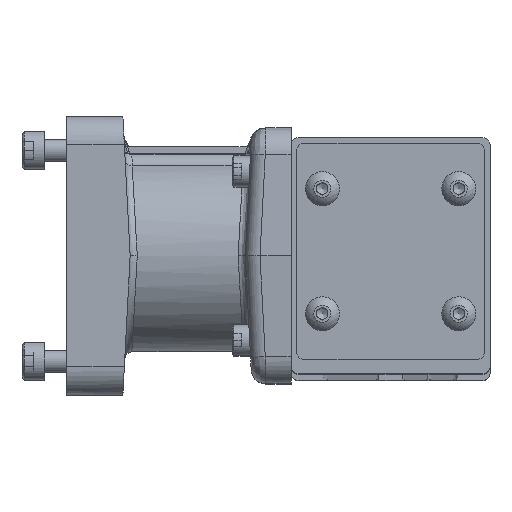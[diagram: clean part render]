
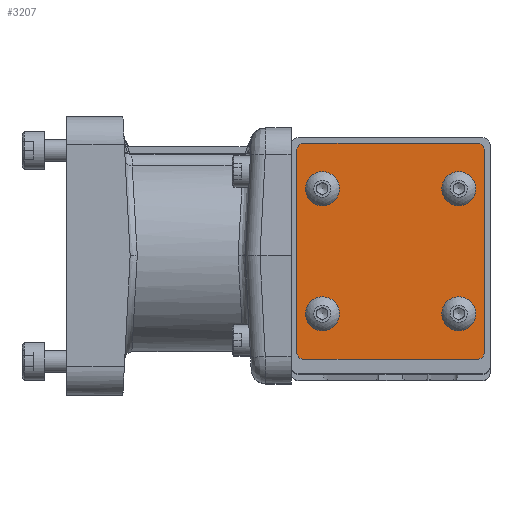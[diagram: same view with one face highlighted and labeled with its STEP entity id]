
A CAD part, top view. The second image highlights one B-rep face of the part: STEP entity #3207.
In plain terms, the highlighted planar face has unit normal (0, 0, 1).
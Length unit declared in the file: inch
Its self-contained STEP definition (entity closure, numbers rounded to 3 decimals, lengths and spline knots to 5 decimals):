
#634 = VERTEX_POINT ( 'NONE', #11875 ) ;
#692 = VECTOR ( 'NONE', #22213, 39.37008 ) ;
#976 = CARTESIAN_POINT ( 'NONE',  ( -0.762, 0.927, 1.063 ) ) ;
#987 = DIRECTION ( 'NONE',  ( 1., 0., 0. ) ) ;
#2146 = ORIENTED_EDGE ( 'NONE', *, *, #10528, .T. ) ;
#2365 = CARTESIAN_POINT ( 'NONE',  ( 0.6, -0.51, 1.063 ) ) ;
#3207 = ADVANCED_FACE ( 'NONE', ( #27735, #45868, #16098, #11901, #27014 ), #4696, .T. ) ;
#3572 = CARTESIAN_POINT ( 'NONE',  ( 0.762, -0.91, 1.063 ) ) ;
#3757 = EDGE_CURVE ( 'NONE', #14435, #14435, #23535, .T. ) ;
#3854 = VECTOR ( 'NONE', #27213, 39.37008 ) ;
#3864 = CARTESIAN_POINT ( 'NONE',  ( -0.762, 0.99, 1.063 ) ) ;
#4056 = AXIS2_PLACEMENT_3D ( 'NONE', #15235, #11529, #26874 ) ;
#4665 = CARTESIAN_POINT ( 'NONE',  ( 0.6, 0.59, 1.063 ) ) ;
#4696 = PLANE ( 'NONE',  #25077 ) ;
#4776 = EDGE_CURVE ( 'NONE', #17840, #16408, #8847, .T. ) ;
#4898 = EDGE_LOOP ( 'NONE', ( #28492 ) ) ;
#5270 = VERTEX_POINT ( 'NONE', #5434 ) ;
#5307 = EDGE_CURVE ( 'NONE', #7314, #17840, #28161, .T. ) ;
#5434 = CARTESIAN_POINT ( 'NONE',  ( -0.762, -0.91, 1.063 ) ) ;
#5904 = EDGE_CURVE ( 'NONE', #634, #29997, #37591, .T. ) ;
#6760 = CARTESIAN_POINT ( 'NONE',  ( 0.6748, -0.63956, 1.063 ) ) ;
#6798 = AXIS2_PLACEMENT_3D ( 'NONE', #15627, #38434, #987 ) ;
#6934 = DIRECTION ( 'NONE',  ( 0.5, -0.866, 0. ) ) ;
#7009 = CIRCLE ( 'NONE', #18083, 0.063 ) ;
#7314 = VERTEX_POINT ( 'NONE', #3572 ) ;
#8186 = EDGE_LOOP ( 'NONE', ( #41074, #40082, #2146, #13989, #41931, #12318, #14798, #11059 ) ) ;
#8196 = CIRCLE ( 'NONE', #35893, 0.14961 ) ;
#8303 = AXIS2_PLACEMENT_3D ( 'NONE', #26528, #41654, #12130 ) ;
#8663 = DIRECTION ( 'NONE',  ( 0., 0., 1. ) ) ;
#8847 = LINE ( 'NONE', #39345, #3854 ) ;
#9681 = EDGE_CURVE ( 'NONE', #20344, #20344, #30883, .T. ) ;
#10018 = EDGE_CURVE ( 'NONE', #5270, #7314, #44063, .T. ) ;
#10528 = EDGE_CURVE ( 'NONE', #25104, #5270, #42841, .T. ) ;
#11059 = ORIENTED_EDGE ( 'NONE', *, *, #5904, .T. ) ;
#11126 = AXIS2_PLACEMENT_3D ( 'NONE', #45116, #41397, #6934 ) ;
#11529 = DIRECTION ( 'NONE',  ( 0., 0., 1. ) ) ;
#11875 = CARTESIAN_POINT ( 'NONE',  ( 0.762, 0.99, 1.063 ) ) ;
#11880 = CARTESIAN_POINT ( 'NONE',  ( -0.825, -0.847, 1.063 ) ) ;
#11901 = FACE_BOUND ( 'NONE', #26910, .T. ) ;
#12025 = VERTEX_POINT ( 'NONE', #45996 ) ;
#12130 = DIRECTION ( 'NONE',  ( 0.5, -0.866, 0. ) ) ;
#12160 = AXIS2_PLACEMENT_3D ( 'NONE', #46170, #43185, #16412 ) ;
#12318 = ORIENTED_EDGE ( 'NONE', *, *, #4776, .T. ) ;
#13989 = ORIENTED_EDGE ( 'NONE', *, *, #10018, .T. ) ;
#14435 = VERTEX_POINT ( 'NONE', #6760 ) ;
#14798 = ORIENTED_EDGE ( 'NONE', *, *, #22359, .T. ) ;
#15196 = CARTESIAN_POINT ( 'NONE',  ( -0.5252, -0.63956, 1.063 ) ) ;
#15235 = CARTESIAN_POINT ( 'NONE',  ( -0.762, -0.847, 1.063 ) ) ;
#15627 = CARTESIAN_POINT ( 'NONE',  ( 0.762, -0.847, 1.063 ) ) ;
#16098 = FACE_BOUND ( 'NONE', #38604, .T. ) ;
#16408 = VERTEX_POINT ( 'NONE', #24290 ) ;
#16412 = DIRECTION ( 'NONE',  ( -1., 0., 0. ) ) ;
#16902 = CIRCLE ( 'NONE', #12160, 0.063 ) ;
#17565 = CARTESIAN_POINT ( 'NONE',  ( -0.825, 0.927, 1.063 ) ) ;
#17792 = CARTESIAN_POINT ( 'NONE',  ( -0.762, -0.91, 1.063 ) ) ;
#17823 = CIRCLE ( 'NONE', #8303, 0.14961 ) ;
#17840 = VERTEX_POINT ( 'NONE', #39616 ) ;
#18083 = AXIS2_PLACEMENT_3D ( 'NONE', #43642, #47379, #39443 ) ;
#20101 = CARTESIAN_POINT ( 'NONE',  ( -0.5252, 0.46044, 1.063 ) ) ;
#20344 = VERTEX_POINT ( 'NONE', #20101 ) ;
#20364 = AXIS2_PLACEMENT_3D ( 'NONE', #2365, #24677, #39574 ) ;
#21184 = CARTESIAN_POINT ( 'NONE',  ( -0.762, 0.99, 1.063 ) ) ;
#21851 = VERTEX_POINT ( 'NONE', #48743 ) ;
#22213 = DIRECTION ( 'NONE',  ( -1., 0., 0. ) ) ;
#22359 = EDGE_CURVE ( 'NONE', #16408, #634, #16902, .T. ) ;
#23535 = CIRCLE ( 'NONE', #20364, 0.14961 ) ;
#23708 = EDGE_CURVE ( 'NONE', #33546, #33546, #17823, .T. ) ;
#24290 = CARTESIAN_POINT ( 'NONE',  ( 0.825, 0.927, 1.063 ) ) ;
#24677 = DIRECTION ( 'NONE',  ( 0., 0., 1. ) ) ;
#24753 = LINE ( 'NONE', #17565, #29241 ) ;
#25018 = ORIENTED_EDGE ( 'NONE', *, *, #3757, .F. ) ;
#25077 = AXIS2_PLACEMENT_3D ( 'NONE', #976, #8663, #27260 ) ;
#25104 = VERTEX_POINT ( 'NONE', #11880 ) ;
#26528 = CARTESIAN_POINT ( 'NONE',  ( -0.6, -0.51, 1.063 ) ) ;
#26874 = DIRECTION ( 'NONE',  ( 1., 0., 0. ) ) ;
#26910 = EDGE_LOOP ( 'NONE', ( #25018 ) ) ;
#27014 = FACE_BOUND ( 'NONE', #4898, .T. ) ;
#27213 = DIRECTION ( 'NONE',  ( 0., 1., 0. ) ) ;
#27260 = DIRECTION ( 'NONE',  ( 1., 0., 0. ) ) ;
#27735 = FACE_BOUND ( 'NONE', #36174, .T. ) ;
#28161 = CIRCLE ( 'NONE', #6798, 0.063 ) ;
#28492 = ORIENTED_EDGE ( 'NONE', *, *, #23708, .F. ) ;
#29241 = VECTOR ( 'NONE', #45093, 39.37008 ) ;
#29997 = VERTEX_POINT ( 'NONE', #21184 ) ;
#30754 = EDGE_CURVE ( 'NONE', #29997, #21851, #7009, .T. ) ;
#30883 = CIRCLE ( 'NONE', #11126, 0.14961 ) ;
#33546 = VERTEX_POINT ( 'NONE', #15196 ) ;
#33987 = EDGE_CURVE ( 'NONE', #21851, #25104, #24753, .T. ) ;
#35077 = ORIENTED_EDGE ( 'NONE', *, *, #9681, .F. ) ;
#35893 = AXIS2_PLACEMENT_3D ( 'NONE', #4665, #36356, #39362 ) ;
#36174 = EDGE_LOOP ( 'NONE', ( #35077 ) ) ;
#36356 = DIRECTION ( 'NONE',  ( 0., 0., 1. ) ) ;
#37591 = LINE ( 'NONE', #3864, #692 ) ;
#38197 = EDGE_CURVE ( 'NONE', #12025, #12025, #8196, .T. ) ;
#38434 = DIRECTION ( 'NONE',  ( 0., 0., 1. ) ) ;
#38604 = EDGE_LOOP ( 'NONE', ( #46700 ) ) ;
#38851 = VECTOR ( 'NONE', #48784, 39.37008 ) ;
#39345 = CARTESIAN_POINT ( 'NONE',  ( 0.825, 0.927, 1.063 ) ) ;
#39362 = DIRECTION ( 'NONE',  ( 0.5, -0.866, 0. ) ) ;
#39443 = DIRECTION ( 'NONE',  ( 1., 0., 0. ) ) ;
#39574 = DIRECTION ( 'NONE',  ( 0.5, -0.866, 0. ) ) ;
#39616 = CARTESIAN_POINT ( 'NONE',  ( 0.825, -0.847, 1.063 ) ) ;
#40082 = ORIENTED_EDGE ( 'NONE', *, *, #33987, .T. ) ;
#41074 = ORIENTED_EDGE ( 'NONE', *, *, #30754, .T. ) ;
#41397 = DIRECTION ( 'NONE',  ( 0., 0., 1. ) ) ;
#41654 = DIRECTION ( 'NONE',  ( 0., 0., 1. ) ) ;
#41931 = ORIENTED_EDGE ( 'NONE', *, *, #5307, .T. ) ;
#42841 = CIRCLE ( 'NONE', #4056, 0.063 ) ;
#43185 = DIRECTION ( 'NONE',  ( 0., 0., 1. ) ) ;
#43642 = CARTESIAN_POINT ( 'NONE',  ( -0.762, 0.927, 1.063 ) ) ;
#44063 = LINE ( 'NONE', #17792, #38851 ) ;
#45093 = DIRECTION ( 'NONE',  ( 0., -1., 0. ) ) ;
#45116 = CARTESIAN_POINT ( 'NONE',  ( -0.6, 0.59, 1.063 ) ) ;
#45868 = FACE_OUTER_BOUND ( 'NONE', #8186, .T. ) ;
#45996 = CARTESIAN_POINT ( 'NONE',  ( 0.6748, 0.46044, 1.063 ) ) ;
#46170 = CARTESIAN_POINT ( 'NONE',  ( 0.762, 0.927, 1.063 ) ) ;
#46700 = ORIENTED_EDGE ( 'NONE', *, *, #38197, .F. ) ;
#47379 = DIRECTION ( 'NONE',  ( 0., 0., 1. ) ) ;
#48743 = CARTESIAN_POINT ( 'NONE',  ( -0.825, 0.927, 1.063 ) ) ;
#48784 = DIRECTION ( 'NONE',  ( 1., 0., 0. ) ) ;
